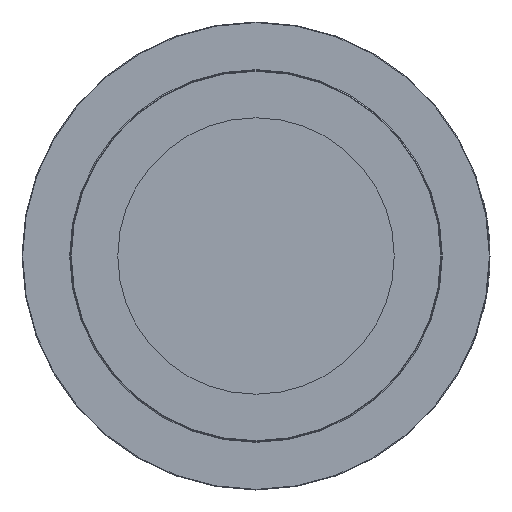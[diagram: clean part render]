
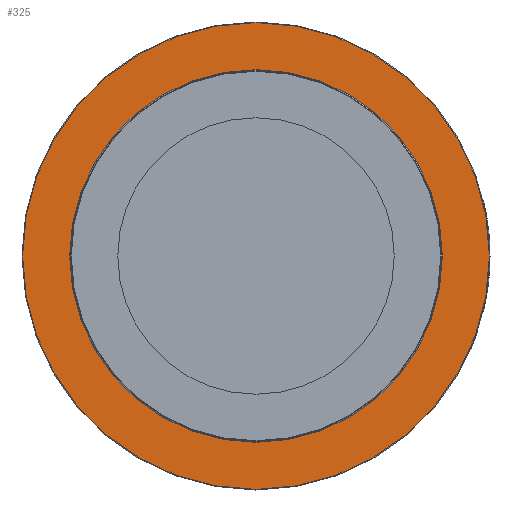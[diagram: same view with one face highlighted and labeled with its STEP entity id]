
A CAD part, left-side view. The second image highlights one B-rep face of the part: STEP entity #325.
In plain terms, the highlighted planar face has unit normal (-1, 0, 0).
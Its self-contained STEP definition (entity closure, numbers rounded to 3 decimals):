
#325 = ADVANCED_FACE( '', ( #811, #812 ), #813, .T. );
#811 = FACE_OUTER_BOUND( '', #1776, .T. );
#812 = FACE_BOUND( '', #1777, .T. );
#813 = PLANE( '', #1778 );
#1776 = EDGE_LOOP( '', ( #4405 ) );
#1777 = EDGE_LOOP( '', ( #4406 ) );
#1778 = AXIS2_PLACEMENT_3D( '', #4407, #4408, #4409 );
#4405 = ORIENTED_EDGE( '', *, *, #5986, .T. );
#4406 = ORIENTED_EDGE( '', *, *, #5806, .F. );
#4407 = CARTESIAN_POINT( '', ( 111.395, 0., 189.992 ) );
#4408 = DIRECTION( '', ( -1., 0., 0. ) );
#4409 = DIRECTION( '', ( 0., 0., 1. ) );
#5806 = EDGE_CURVE( '', #6555, #6555, #6556, .T. );
#5986 = EDGE_CURVE( '', #6859, #6859, #6860, .T. );
#6555 = VERTEX_POINT( '', #7795 );
#6556 = CIRCLE( '', #7796, 151.682 );
#6859 = VERTEX_POINT( '', #8498 );
#6860 = CIRCLE( '', #8499, 189.992 );
#7795 = CARTESIAN_POINT( '', ( 111.395, 0., 151.682 ) );
#7796 = AXIS2_PLACEMENT_3D( '', #10684, #10685, #10686 );
#8498 = CARTESIAN_POINT( '', ( 111.395, 0., 189.992 ) );
#8499 = AXIS2_PLACEMENT_3D( '', #10696, #10697, #10698 );
#10684 = CARTESIAN_POINT( '', ( 111.395, 0., 0. ) );
#10685 = DIRECTION( '', ( -1., 0., 0. ) );
#10686 = DIRECTION( '', ( 0., 0., 1. ) );
#10696 = CARTESIAN_POINT( '', ( 111.395, 0., 0. ) );
#10697 = DIRECTION( '', ( -1., 0., 0. ) );
#10698 = DIRECTION( '', ( 0., 0., 1. ) );
